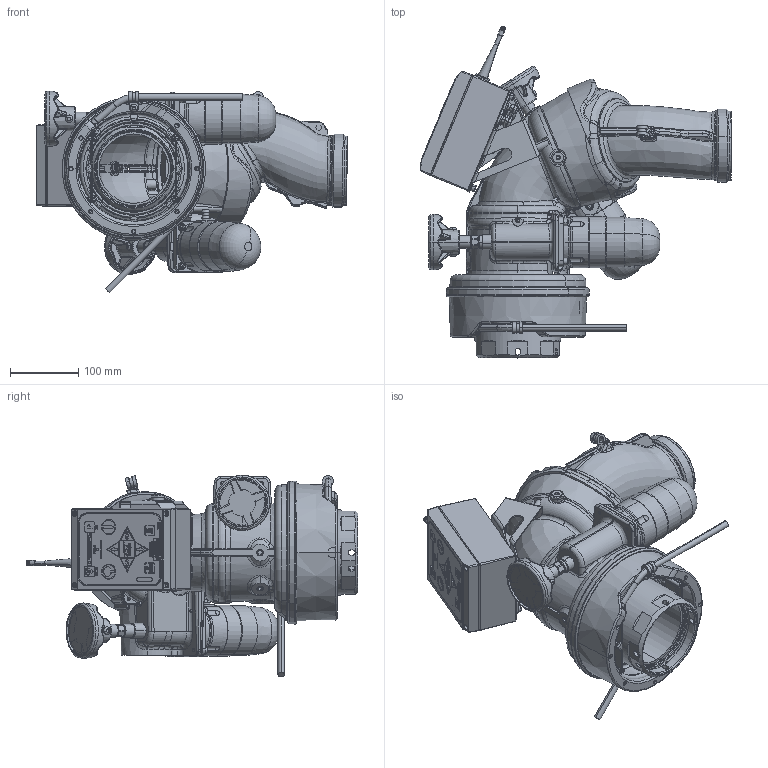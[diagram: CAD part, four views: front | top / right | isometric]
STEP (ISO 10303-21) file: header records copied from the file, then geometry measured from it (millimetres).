
FILE_DESCRIPTION (( 'STEP AP203' ), '1' );
FILE_NAME ('Y4-EP1A_Horizontal.STEP', '2014-07-03T17:42:45', ( '' ), ( '' ), 'SwSTEP 2.0', 'SolidWorks 2014', '' );
FILE_SCHEMA (( 'CONFIG_CONTROL_DESIGN' ));
Products named in the file (1): Y4-EP1A_Horizontal
Bounding box: 456.1 x 486.3 x 295.8 mm (x, y, z)
Surface area: 1023673.2 mm2 (no closed solid volume)
Topology: 0 solids, 254 shells, 2866 faces, 12301 edges, 9480 vertices
Faces by surface type: plane 920, cylinder 660, bspline 621, torus 340, cone 295, sphere 30
Entity records: 199897 total; most frequent: CARTESIAN_POINT 109465, ORIENTED_EDGE 17688, DIRECTION 16187, EDGE_CURVE 12265, VERTEX_POINT 9469, AXIS2_PLACEMENT_3D 5453, LINE 5281, VECTOR 5281
